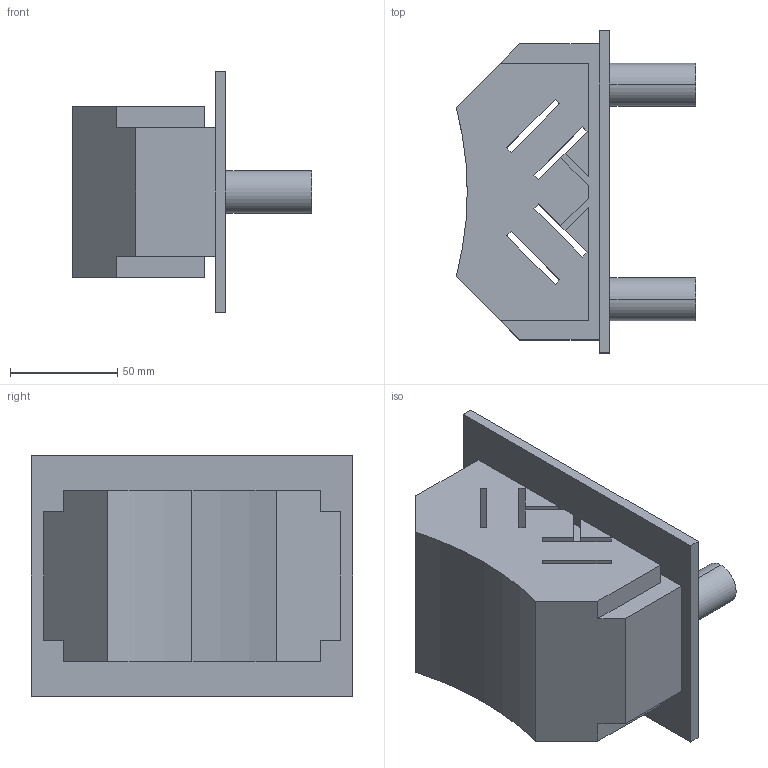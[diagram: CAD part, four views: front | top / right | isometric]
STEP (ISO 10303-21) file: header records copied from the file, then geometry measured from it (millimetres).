
FILE_DESCRIPTION(('STEP AP214'),'1');
FILE_NAME('C:/Users/mashimo/Documents/次世代エンジン/ボア６ｃｍ/TurboCAD/3D/tmp0.STEP','2025-07-11T09:11:23',(' '),(' '),'Spatial InterOp 3D',' ',' ');
FILE_SCHEMA(('automotive_design'));
Length unit declared in the file: millimetre
Products named in the file (1): 1
Bounding box: 111.62 x 150 x 112 mm (x, y, z)
Volume: 693412.9 mm3; surface area: 92813.8 mm2
Topology: 1 solids, 1 shells, 56 faces, 165 edges, 110 vertices
Faces by surface type: plane 50, cylinder 6
Entity records: 2329 total; most frequent: CARTESIAN_POINT 332, ORIENTED_EDGE 330, DIRECTION 291, EDGE_CURVE 165, LINE 153, VECTOR 153, VERTEX_POINT 110, AXIS2_PLACEMENT_3D 69
